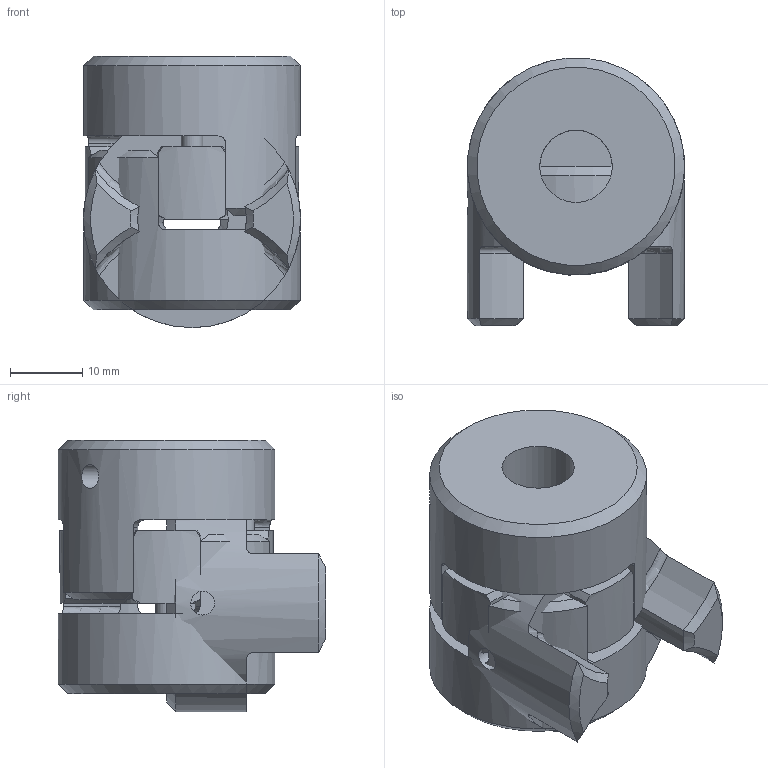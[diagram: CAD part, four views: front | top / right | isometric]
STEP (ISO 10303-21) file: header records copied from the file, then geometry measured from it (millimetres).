
FILE_DESCRIPTION( ( 'Unknown' ), '1' );
FILE_NAME( 'C:/Dokumente und Einstellungen/Sven/Desktop/homepage/cad - homepage/KBE1/KBE 1 - 14.stp', 'Unknown', ( 'Unknown' ), ( 'Unknown' ), 'XStep 1.0', 'Unknown', ' ' );
FILE_SCHEMA( ( 'automotive_design' ) );
Length unit declared in the file: millimetre
Products named in the file (3): Assem1; KBE 1 - 14_Nabe_0; Zahnkranz_14_Standard_0
Bounding box: 30 x 36.96 x 37.5 mm (x, y, z)
Volume: 31952.1 mm3; surface area: 14433 mm2
Topology: 5 solids, 5 shells, 177 faces, 446 edges, 291 vertices
Faces by surface type: cylinder 68, cone 63, plane 34, torus 12
Full cylindrical faces by diameter (mm): 3 x8, 3.3 x3, 10 x7, 15 x3, 30 x3
Entity records: 2836 total; most frequent: CARTESIAN_POINT 689, DIRECTION 372, ORIENTED_EDGE 338, AXIS2_PLACEMENT_3D 174, EDGE_CURVE 169, VERTEX_POINT 117, EDGE_LOOP 98, CIRCLE 95
